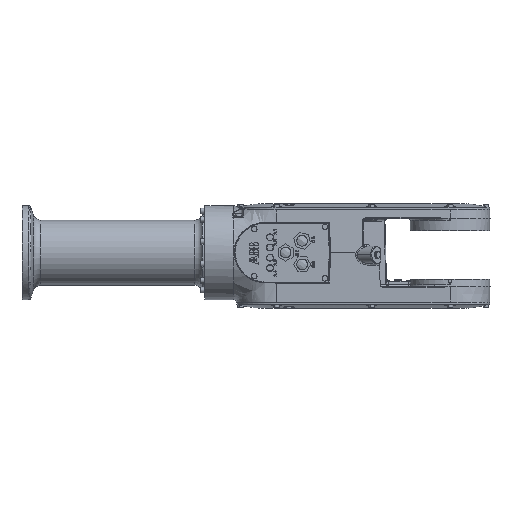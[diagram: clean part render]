
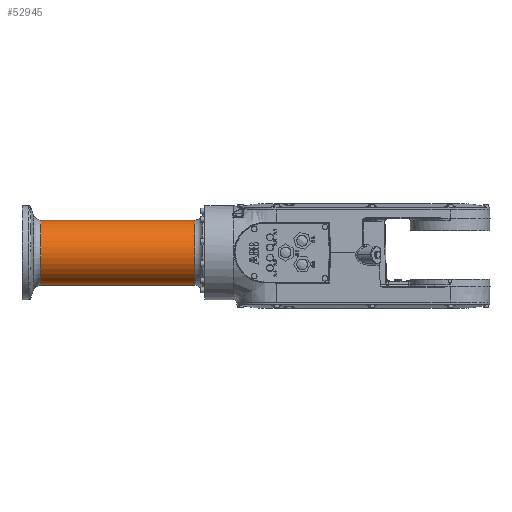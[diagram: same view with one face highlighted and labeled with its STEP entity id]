
A CAD part, top view. The second image highlights one B-rep face of the part: STEP entity #52945.
In plain terms, the highlighted cylindrical face has radius 41.5 mm (diameter 83 mm), a partial arc.
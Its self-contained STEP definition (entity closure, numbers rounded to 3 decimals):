
#3850 = CIRCLE ( 'NONE', #61572, 41.5 ) ;
#4388 = AXIS2_PLACEMENT_3D ( 'NONE', #72288, #8808, #67646 ) ;
#4458 = DIRECTION ( 'NONE',  ( -1., 0., 0. ) ) ;
#7107 = EDGE_CURVE ( 'NONE', #7181, #71842, #36384, .T. ) ;
#7181 = VERTEX_POINT ( 'NONE', #66899 ) ;
#8033 = ORIENTED_EDGE ( 'NONE', *, *, #61196, .F. ) ;
#8808 = DIRECTION ( 'NONE',  ( 1., 0., 0. ) ) ;
#10126 = LINE ( 'NONE', #39368, #21336 ) ;
#10178 = LINE ( 'NONE', #45188, #53320 ) ;
#13814 = CARTESIAN_POINT ( 'NONE',  ( 303.27, -41.5, 1159. ) ) ;
#15574 = DIRECTION ( 'NONE',  ( -1., 0., 0. ) ) ;
#15634 = ORIENTED_EDGE ( 'NONE', *, *, #18778, .T. ) ;
#17850 = VERTEX_POINT ( 'NONE', #52860 ) ;
#18778 = EDGE_CURVE ( 'NONE', #25369, #17850, #3850, .T. ) ;
#21336 = VECTOR ( 'NONE', #39743, 1000. ) ;
#21791 = CARTESIAN_POINT ( 'NONE',  ( 267., 0., 1159. ) ) ;
#25369 = VERTEX_POINT ( 'NONE', #31362 ) ;
#27707 = AXIS2_PLACEMENT_3D ( 'NONE', #21791, #4458, #69091 ) ;
#28785 = EDGE_CURVE ( 'NONE', #25369, #71842, #10178, .T. ) ;
#29261 = ORIENTED_EDGE ( 'NONE', *, *, #7107, .T. ) ;
#31362 = CARTESIAN_POINT ( 'NONE',  ( 499.774, -41.5, 1159. ) ) ;
#36384 = CIRCLE ( 'NONE', #4388, 41.5 ) ;
#39368 = CARTESIAN_POINT ( 'NONE',  ( 267., 41.5, 1159. ) ) ;
#39743 = DIRECTION ( 'NONE',  ( 1., 0., 0. ) ) ;
#45188 = CARTESIAN_POINT ( 'NONE',  ( 267., -41.5, 1159. ) ) ;
#50962 = CARTESIAN_POINT ( 'NONE',  ( 499.774, 0., 1159. ) ) ;
#51033 = CYLINDRICAL_SURFACE ( 'NONE', #27707, 41.5 ) ;
#52860 = CARTESIAN_POINT ( 'NONE',  ( 499.774, 41.5, 1159. ) ) ;
#52945 = ADVANCED_FACE ( 'NONE', ( #57164 ), #51033, .T. ) ;
#53320 = VECTOR ( 'NONE', #15574, 1000. ) ;
#57164 = FACE_OUTER_BOUND ( 'NONE', #63267, .T. ) ;
#61196 = EDGE_CURVE ( 'NONE', #7181, #17850, #10126, .T. ) ;
#61572 = AXIS2_PLACEMENT_3D ( 'NONE', #50962, #74422, #74801 ) ;
#63267 = EDGE_LOOP ( 'NONE', ( #8033, #29261, #68427, #15634 ) ) ;
#66899 = CARTESIAN_POINT ( 'NONE',  ( 303.27, 41.5, 1159. ) ) ;
#67646 = DIRECTION ( 'NONE',  ( 0., -1., 0. ) ) ;
#68427 = ORIENTED_EDGE ( 'NONE', *, *, #28785, .F. ) ;
#69091 = DIRECTION ( 'NONE',  ( 0., -1., 0. ) ) ;
#71842 = VERTEX_POINT ( 'NONE', #13814 ) ;
#72288 = CARTESIAN_POINT ( 'NONE',  ( 303.27, 0., 1159. ) ) ;
#74422 = DIRECTION ( 'NONE',  ( -1., 0., 0. ) ) ;
#74801 = DIRECTION ( 'NONE',  ( 0., -1., 0. ) ) ;
